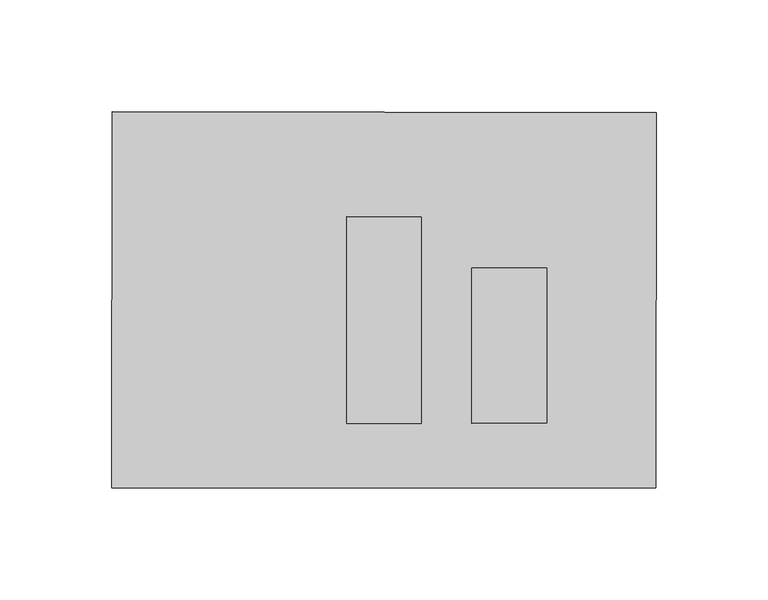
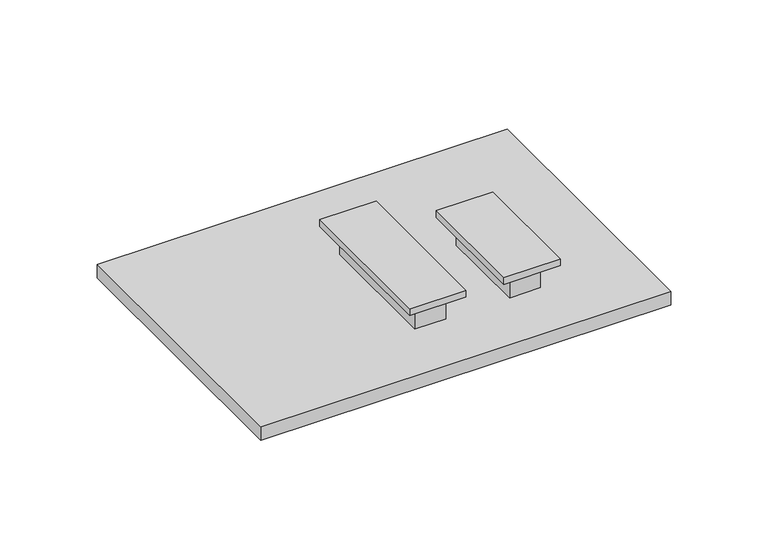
"""IFC4 building model written with IfcOpenShell, lengths in millimetres: flow terminal geometry, Tempo : Tempo."""

from ifc_helpers import new_model, si_unit, frame, origin, origin_with_axes, place, context, project, spatial, polyline, outline, extrude, source, transform, mapped, element, save


def flow_terminal_b592cb43(model_context):
    return source(origin(), model_context, "Body", "SweptSolid", [
        extrude(outline(polyline([(9.2009997, 29.675001), (9.2009997, -47.6750015), (-9.2009997, -47.6750015), (-9.2009997, 29.675001), (9.2009997, 29.675001)])), frame((0.0, 0.0, 8.6093373), z_axis=(0.0, 0.0, 1.0), x_axis=(1.0, 0.0, 0.0)), (0.0, 0.0, 1.0), 15.5906617),
        extrude(outline(polyline([(65.2009984, 6.6750002), (65.2009984, -47.6750015), (47.0045262, -47.6750015), (46.7952508, 6.6750002), (65.2009984, 6.6750002)])), frame((0.0, 0.0, 8.6093373), z_axis=(0.0, 0.0, 1.0), x_axis=(1.0, 0.0, 0.0)), (0.0, 0.0, 1.0), 15.5906617),
        extrude(outline(polyline([(-16.7075235, 37.1793532), (16.724961, 37.0622362), (16.7310647, -55.2317415), (-16.6396004, -55.2064918), (-16.7075235, 37.1793532)])), frame((0.0, 0.0, 24.1999991), z_axis=(0.0, 0.0, 1.0), x_axis=(1.0, 0.0, 0.0)), (0.0, 0.0, 1.0), 4.300001),
        extrude(outline(polyline([(39.2686609, -55.209912), (39.2932711, 14.2317242), (72.7249986, 14.206427), (72.7249986, -55.0822804), (39.2686609, -55.209912)])), frame((0.0, 0.0, 24.1999991), z_axis=(0.0, 0.0, 1.0), x_axis=(1.0, 0.0, 0.0)), (0.0, 0.0, 1.0), 4.300001),
        extrude(outline(polyline([(-121.4495261, 84.0023128), (121.5005176, 83.7136308), (121.4495267, -84.0004033), (-121.5005893, -83.9496745), (-121.4495261, 84.0023128)])), origin_with_axes(), (0.0, 0.0, 1.0), 8.6093373),
    ])


if __name__ == "__main__":
    model = new_model("IFC4")
    model_context = context("Model", 3, world=origin())
    ifc_project = project(units=[si_unit("LENGTHUNIT", "METRE", prefix="MILLI")], contexts=[model_context])
    site = spatial("IfcSite", under=ifc_project)
    building = spatial("IfcBuilding", under=site)
    placement = place(None, origin())
    flow_terminal_shape = flow_terminal_b592cb43(model_context)
    element("IfcFlowTerminal", 1, ObjectType="Tempo : Tempo", at=placement, inside=building, context=model_context, shape_type="MappedRepresentation", body=[
        mapped(flow_terminal_shape, transform((0.0, 0.0, 0.0), x_axis=(1.0, 0.0, 0.0), y_axis=(0.0, 1.0, 0.0), z_axis=(0.0, 0.0, 1.0))),
    ])
    save(model, "model.ifc")
